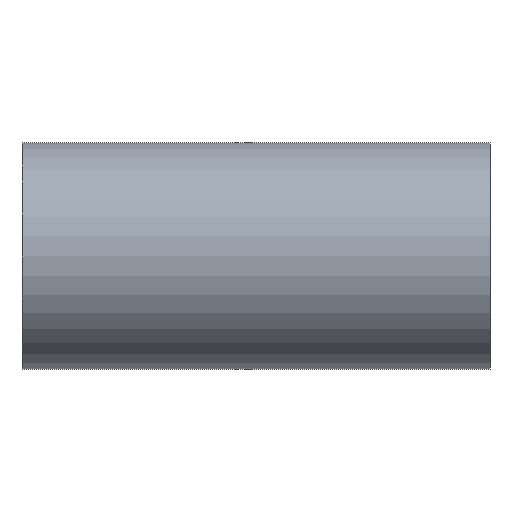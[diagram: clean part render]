
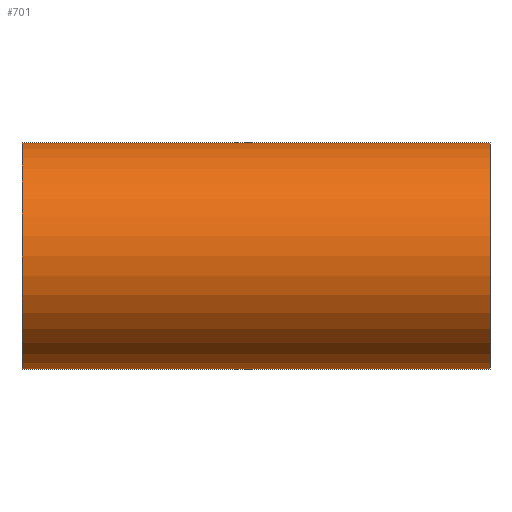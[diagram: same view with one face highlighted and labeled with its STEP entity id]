
A CAD part, front view. The second image highlights one B-rep face of the part: STEP entity #701.
In plain terms, the highlighted cylindrical face has radius 50.8 mm (diameter 101.6 mm), a partial arc.
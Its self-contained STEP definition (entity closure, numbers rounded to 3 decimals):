
#182 = EDGE_CURVE ( 'NONE', #1162, #271, #918, .T. ) ;
#242 = DIRECTION ( 'NONE',  ( 1., 0., 0. ) ) ;
#255 = LINE ( 'NONE', #342, #1382 ) ;
#271 = VERTEX_POINT ( 'NONE', #1954 ) ;
#335 = DIRECTION ( 'NONE',  ( 0., 0., -1. ) ) ;
#342 = CARTESIAN_POINT ( 'NONE',  ( -104.8, 0., 50.8 ) ) ;
#414 = VERTEX_POINT ( 'NONE', #855 ) ;
#551 = ORIENTED_EDGE ( 'NONE', *, *, #1552, .T. ) ;
#556 = ORIENTED_EDGE ( 'NONE', *, *, #826, .T. ) ;
#558 = AXIS2_PLACEMENT_3D ( 'NONE', #1705, #1219, #1237 ) ;
#581 = ORIENTED_EDGE ( 'NONE', *, *, #182, .T. ) ;
#590 = EDGE_LOOP ( 'NONE', ( #748, #581, #556, #551 ) ) ;
#606 = CARTESIAN_POINT ( 'NONE',  ( 104.8, 0., 0. ) ) ;
#701 = ADVANCED_FACE ( 'NONE', ( #1686 ), #1633, .T. ) ;
#748 = ORIENTED_EDGE ( 'NONE', *, *, #963, .F. ) ;
#826 = EDGE_CURVE ( 'NONE', #271, #1979, #1951, .T. ) ;
#855 = CARTESIAN_POINT ( 'NONE',  ( 104.8, 0., 50.8 ) ) ;
#918 = CIRCLE ( 'NONE', #558, 50.8 ) ;
#963 = EDGE_CURVE ( 'NONE', #1162, #414, #255, .T. ) ;
#970 = CARTESIAN_POINT ( 'NONE',  ( 104.8, 0., -50.8 ) ) ;
#1030 = CARTESIAN_POINT ( 'NONE',  ( -104.8, 0., -50.8 ) ) ;
#1058 = DIRECTION ( 'NONE',  ( -1., 0., 0. ) ) ;
#1089 = CARTESIAN_POINT ( 'NONE',  ( -104.8, 0., 0. ) ) ;
#1112 = VECTOR ( 'NONE', #1189, 1000. ) ;
#1155 = DIRECTION ( 'NONE',  ( 0., 0., -1. ) ) ;
#1162 = VERTEX_POINT ( 'NONE', #1545 ) ;
#1189 = DIRECTION ( 'NONE',  ( 1., 0., 0. ) ) ;
#1205 = DIRECTION ( 'NONE',  ( 1., 0., 0. ) ) ;
#1219 = DIRECTION ( 'NONE',  ( 1., 0., 0. ) ) ;
#1237 = DIRECTION ( 'NONE',  ( 0., 0., -1. ) ) ;
#1382 = VECTOR ( 'NONE', #1205, 1000. ) ;
#1545 = CARTESIAN_POINT ( 'NONE',  ( -104.8, 0., 50.8 ) ) ;
#1552 = EDGE_CURVE ( 'NONE', #1979, #414, #1989, .T. ) ;
#1633 = CYLINDRICAL_SURFACE ( 'NONE', #1918, 50.8 ) ;
#1686 = FACE_OUTER_BOUND ( 'NONE', #590, .T. ) ;
#1705 = CARTESIAN_POINT ( 'NONE',  ( -104.8, 0., 0. ) ) ;
#1796 = AXIS2_PLACEMENT_3D ( 'NONE', #606, #1058, #1155 ) ;
#1918 = AXIS2_PLACEMENT_3D ( 'NONE', #1089, #242, #335 ) ;
#1951 = LINE ( 'NONE', #1030, #1112 ) ;
#1954 = CARTESIAN_POINT ( 'NONE',  ( -104.8, 0., -50.8 ) ) ;
#1979 = VERTEX_POINT ( 'NONE', #970 ) ;
#1989 = CIRCLE ( 'NONE', #1796, 50.8 ) ;
